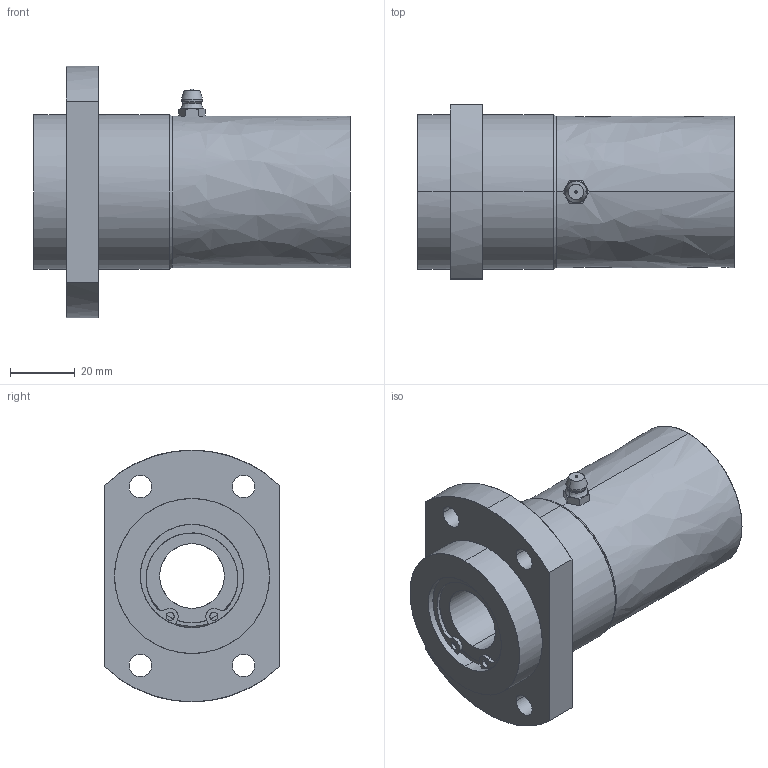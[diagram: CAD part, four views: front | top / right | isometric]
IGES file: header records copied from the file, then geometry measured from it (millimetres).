
Global section: file name: No Iges File Name specified; native system: AutoDesk Inventor R10; preprocessor: AutoDesk Inventor Iges Exporter R10; author: No Author specified; organization: No Organization specified; date: 20101214.135157; units: millimetre
Bounding box: 98 x 54 x 78 mm (x, y, z)
Surface area: 34030.3 mm2 (no closed solid volume)
Topology: 0 solids, 0 shells, 158 faces, 1082 edges, 1080 vertices
Faces by surface type: bspline 158
